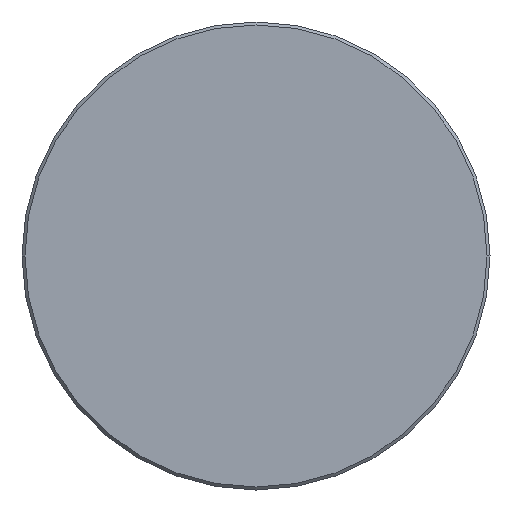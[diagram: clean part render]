
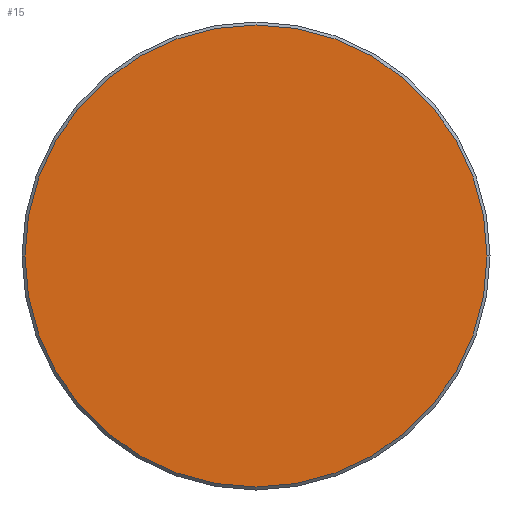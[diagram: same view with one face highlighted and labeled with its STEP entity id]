
A CAD part, left-side view. The second image highlights one B-rep face of the part: STEP entity #15.
In plain terms, the highlighted planar face has unit normal (-1, 0, 0).
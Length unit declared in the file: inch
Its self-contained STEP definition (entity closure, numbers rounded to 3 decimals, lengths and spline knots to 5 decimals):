
#9 = CARTESIAN_POINT ( 'NONE',  ( 0., 0., 0. ) ) ;
#15 = ADVANCED_FACE ( 'NONE', ( #132 ), #284, .T. ) ;
#32 = ORIENTED_EDGE ( 'NONE', *, *, #38, .T. ) ;
#33 = AXIS2_PLACEMENT_3D ( 'NONE', #331, #106, #223 ) ;
#38 = EDGE_CURVE ( 'NONE', #95, #209, #56, .T. ) ;
#39 = CARTESIAN_POINT ( 'NONE',  ( 0., 0., 0. ) ) ;
#48 = EDGE_CURVE ( 'NONE', #209, #95, #355, .T. ) ;
#56 = CIRCLE ( 'NONE', #33, 0.3085 ) ;
#95 = VERTEX_POINT ( 'NONE', #286 ) ;
#101 = DIRECTION ( 'NONE',  ( -1., 0., 0. ) ) ;
#103 = DIRECTION ( 'NONE',  ( -1., 0., 0. ) ) ;
#106 = DIRECTION ( 'NONE',  ( -1., 0., 0. ) ) ;
#132 = FACE_OUTER_BOUND ( 'NONE', #220, .T. ) ;
#158 = AXIS2_PLACEMENT_3D ( 'NONE', #9, #103, #360 ) ;
#161 = DIRECTION ( 'NONE',  ( 0., -1., 0. ) ) ;
#209 = VERTEX_POINT ( 'NONE', #285 ) ;
#220 = EDGE_LOOP ( 'NONE', ( #347, #32 ) ) ;
#223 = DIRECTION ( 'NONE',  ( 0., -1., 0. ) ) ;
#284 = PLANE ( 'NONE',  #158 ) ;
#285 = CARTESIAN_POINT ( 'NONE',  ( 0., 0.3085, 0. ) ) ;
#286 = CARTESIAN_POINT ( 'NONE',  ( 0., -0.3085, 0. ) ) ;
#331 = CARTESIAN_POINT ( 'NONE',  ( 0., 0., 0. ) ) ;
#347 = ORIENTED_EDGE ( 'NONE', *, *, #48, .T. ) ;
#354 = AXIS2_PLACEMENT_3D ( 'NONE', #39, #101, #161 ) ;
#355 = CIRCLE ( 'NONE', #354, 0.3085 ) ;
#360 = DIRECTION ( 'NONE',  ( 0., -1., 0. ) ) ;
